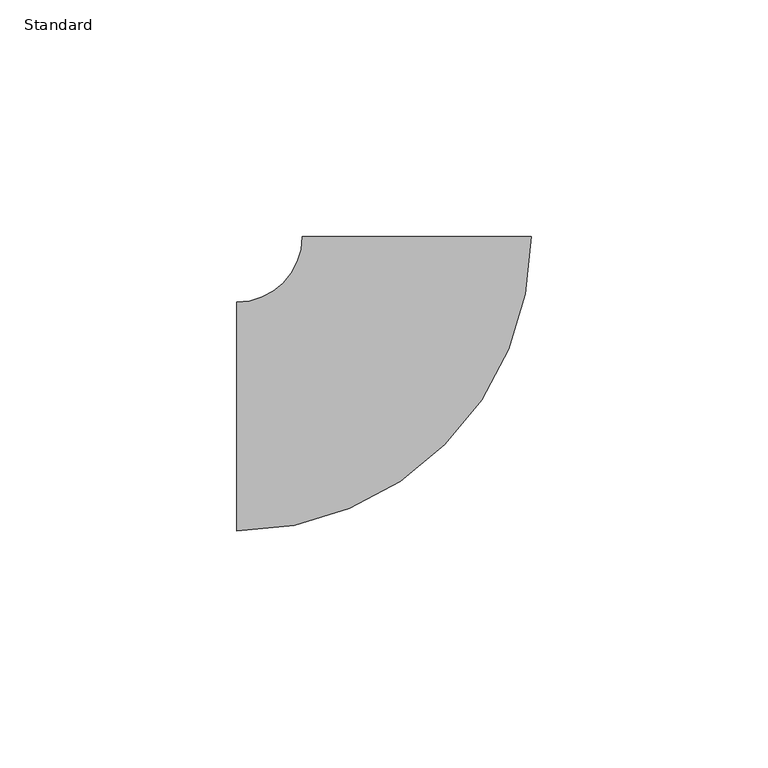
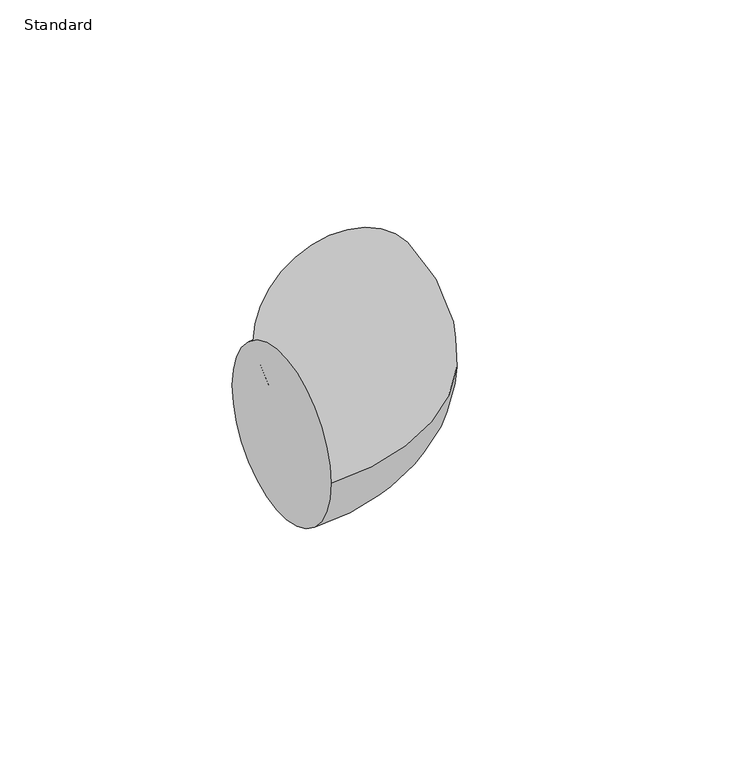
"""IFC4 building model written with IfcOpenShell, lengths in millimetres: pipe fitting geometry, Coude - Générique : Standard."""

from ifc_helpers import new_model, si_unit, point, frame, origin, place, context, project, spatial, circle_curve, ellipse_curve, trimmed, source, transform, mapped, element, save
from ifc_brep_helpers import plane_surface, revolved_surface, advanced_brep


def standard_2580434e(model_context):
    return source(origin(), model_context, "Body", "AdvancedBrep", [
        advanced_brep(
        [(-38.0, -24.15, 0.0), (-38.0, 24.15, 0.0), (24.1502948, 37.9998126, 0.0), (-24.1497052, 38.0001874, 0.0)],
        [
            (0, 1, circle_curve(frame((-38.0, 0.0, 0.0), z_axis=(-1.0, 0.0, 0.0), x_axis=(0.0, 1.0, 0.0)), 24.15)),
            (1, 0, circle_curve(frame((-38.0, 0.0, 0.0), z_axis=(-1.0, 0.0, 0.0), x_axis=(0.0, 1.0, 0.0)), 24.15)),
            (2, 3, circle_curve(frame((0.0002948, 38.0, 0.0), z_axis=(7.75816603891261e-06, 0.9999999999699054, 0.0), x_axis=(-0.9999999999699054, 7.75816603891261e-06, 0.0)), 24.15)),
            (3, 2, circle_curve(frame((0.0002948, 38.0, 0.0), z_axis=(7.75816603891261e-06, 0.9999999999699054, 0.0), x_axis=(-0.9999999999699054, 7.75816603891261e-06, 0.0)), 24.15)),
            (3, 1, circle_curve(frame((-38.0, 38.0002948, 0.0), z_axis=(0.0, 0.0, -1.0), x_axis=(0.0, -1.0, 0.0)), 13.8502948)),
            (0, 2, circle_curve(frame((-38.0, 38.0002948, 0.0), z_axis=(0.0, 0.0, 1.0), x_axis=(0.0, -1.0, 0.0)), 62.1502948)),
        ],
        [
            plane_surface(frame((-38.0, 0.0, 0.0), z_axis=(-1.0, 0.0, 0.0), x_axis=(0.0, 0.0, 1.0))),
            plane_surface(frame((0.0002948, 38.0, 0.0), z_axis=(7.758166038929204e-06, 0.9999999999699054, 0.0), x_axis=(0.0, 0.0, 1.0))),
            revolved_surface(trimmed(ellipse_curve(frame((-38.0, 0.0, 0.0), z_axis=(-1.0, 0.0, 0.0), x_axis=(0.0, 1.0, 0.0)), 24.15, 24.15), [point((-38.0, -24.15, 0.0))], [point((-38.0, 24.15, 0.0))], True, "CARTESIAN"), (-38.0, 38.0002948, 0.0), (0.0, 0.0, 1.0)),
            revolved_surface(trimmed(ellipse_curve(frame((-38.0, 0.0, 0.0), z_axis=(-1.0, 0.0, 0.0), x_axis=(0.0, 1.0, 0.0)), 24.15, 24.15), [point((-38.0, 24.15, 0.0))], [point((-38.0, -24.15, 0.0))], True, "CARTESIAN"), (-38.0, 38.0002948, 0.0), (0.0, 0.0, 1.0)),
        ],
        [
            (0, [[1, 2]]),
            (1, [[3, 4]]),
            (2, [[5, -1, 6, -4]]),
            (3, [[-6, -2, -5, -3]]),
        ],
    ),
    ])


if __name__ == "__main__":
    model = new_model("IFC4")
    model_context = context("Model", 3, world=origin())
    ifc_project = project(units=[si_unit("LENGTHUNIT", "METRE", prefix="MILLI")], contexts=[model_context])
    site = spatial("IfcSite", under=ifc_project)
    building = spatial("IfcBuilding", under=site)
    placement = place(None, origin())
    standard_shape = standard_2580434e(model_context)
    element("IfcPipeFitting", 1, ObjectType="Coude - Générique : Standard", at=placement, inside=building, context=model_context, shape_type="MappedRepresentation", body=[
        mapped(standard_shape, transform((0.0, 0.0, 0.0), x_axis=(1.0, 0.0, 0.0), y_axis=(0.0, 1.0, 0.0), z_axis=(0.0, 0.0, 1.0))),
    ])
    save(model, "model.ifc")
